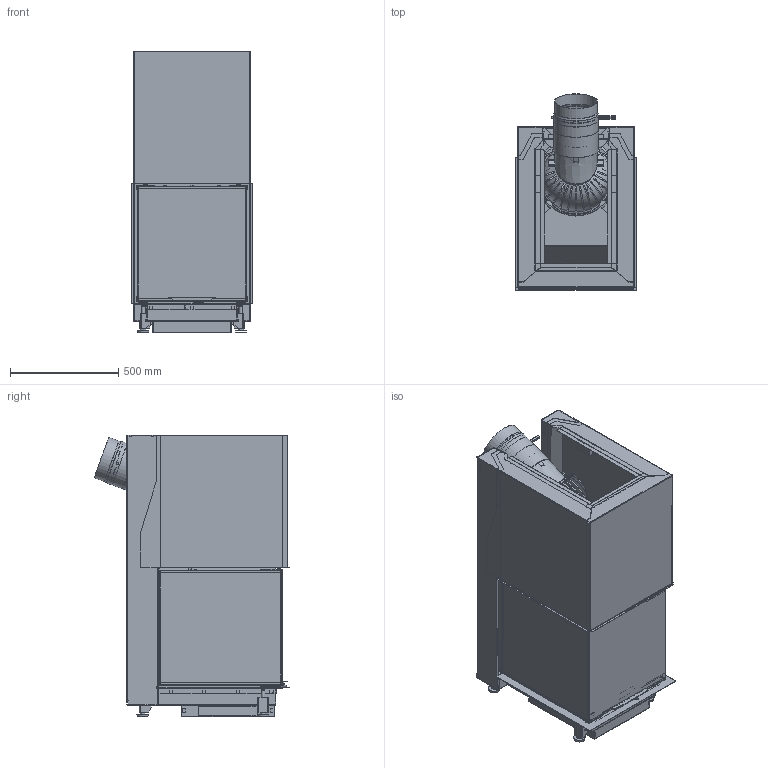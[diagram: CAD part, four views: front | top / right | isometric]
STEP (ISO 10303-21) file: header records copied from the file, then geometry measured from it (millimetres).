
FILE_DESCRIPTION(/* description */ (''),/* implementation_level */ '2;1');
FILE_NAME(/* name */ 'C:\ADSK_DM_WS\CAD_3D\03 Geraete\RIII 55x56x60\Zeichnungen\RIII 55x56x60 Gen.2 ohne Mantel Abgang hinten CAD Planung defriten 2021-03271 211124.stp',/* time_stamp */ '2021-11-24T13:25:26+01:00',/* author */ ('CPI'),/* organization */ (''),/* preprocessor_version */ 'ST-DEVELOPER v18.1',/* originating_system */ 'Autodesk Inventor 2022',/* authorisation */ '');
FILE_SCHEMA (('AUTOMOTIVE_DESIGN { 1 0 10303 214 3 1 1 }'));
Products named in the file (8): 2021-03271; 2021-03262; 2021-03268; 2021-03266; 2021-03264; 2021-03174; 2021-03176; 2018-00985
Assembly tree (7 placements, depth 2):
  2021-03271
    2021-03262
    2021-03268
    2021-03266
    2021-03264
    2021-03174
    2021-03176
    2018-00985
Bounding box: 560 x 902.77 x 1299 mm (x, y, z)
Volume: 23313507.7 mm3; surface area: 16949892.7 mm2
Topology: 17 solids, 32 shells, 7731 faces, 21396 edges, 13468 vertices
Faces by surface type: plane 4645, cylinder 2694, bspline 237, cone 97, torus 57, sphere 1
Full cylindrical faces by diameter (mm): 3.242 x6, 4.8 x1, 6 x3, 7.9 x2, 8 x8, 10 x6, 10.21 x4, 12 x4, 16 x10, 18 x4, 20 x4, 30 x4, 163 x1, 194 x1, 198 x1, 200 x1, 204 x1, 333 x1, 339 x1
Entity records: 259250 total; most frequent: CARTESIAN_POINT 55127, ORIENTED_EDGE 42726, DIRECTION 41803, EDGE_CURVE 21420, LINE 14175, VECTOR 14175, AXIS2_PLACEMENT_3D 13814, VERTEX_POINT 13471
